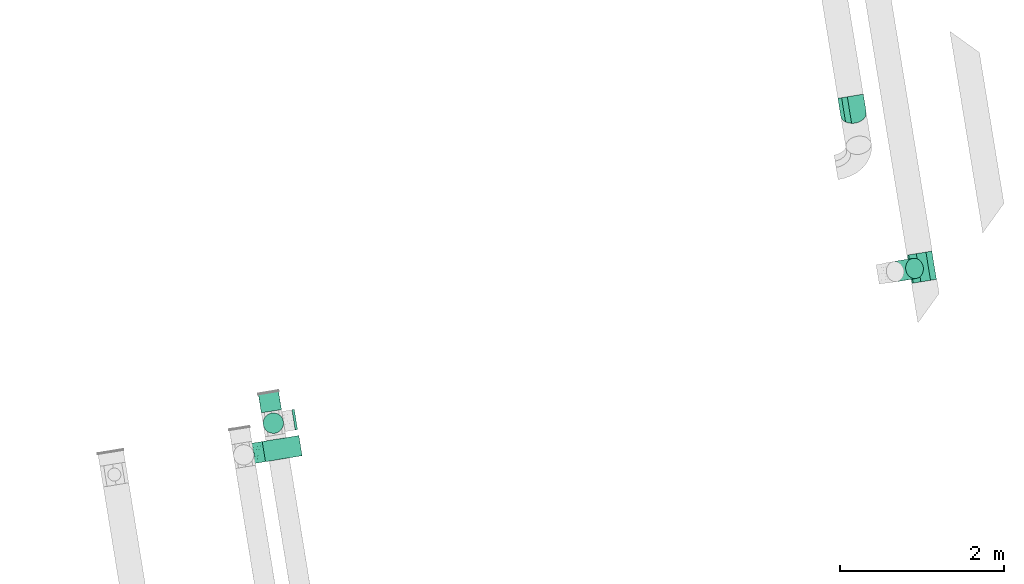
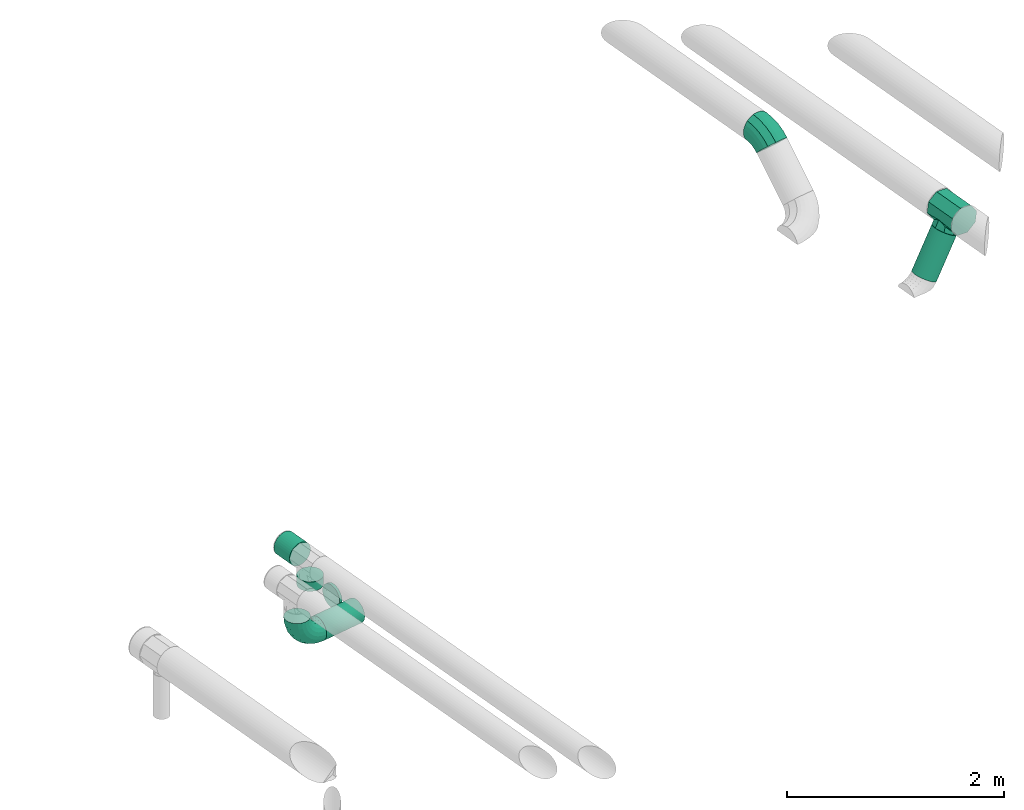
# One storey, part 5 of 15: 5 flow segments, 3 flow fittings.
"""IFC2X3 building model written with IfcOpenShell, lengths in millimetres."""

from ifc_helpers import new_model, entity, si_unit, converted_unit, derived_unit, direction, frame, frame_2d, origin, origin_with_axes, origin_2d_with_axis, place, context, subcontext, project, spatial, circle, extrude, faceted_brep, source, transform, mapped, material, type_object, element, save


model = new_model("IFC2X3")

# Units and contexts
model_context = context("Model", 3, precision=0.01, world=origin(), true_north=direction((6.12323399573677e-17, 1.0)))
plan_context = context("Plan", 3, precision=1e-05, world=origin_with_axes())
body_context = subcontext(model_context, "Body", "Model", "MODEL_VIEW")
ifc_project = project(units=[converted_unit("PLANEANGLEUNIT", "DEGREE", entity("IfcPositiveLengthMeasure", 0.0174532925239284), si_unit("PLANEANGLEUNIT", "RADIAN"), dimensions=[0, 0, 0, 0, 0, 0, 0]), si_unit("AREAUNIT", "SQUARE_METRE"), si_unit("LENGTHUNIT", "METRE", prefix="MILLI"), si_unit("MASSUNIT", "GRAM", prefix="KILO"), si_unit("POWERUNIT", "WATT"), si_unit("PRESSUREUNIT", "PASCAL", prefix="KILO"), si_unit("FORCEUNIT", "NEWTON", prefix="KILO"), si_unit("ELECTRICVOLTAGEUNIT", "VOLT"), si_unit("ELECTRICCURRENTUNIT", "AMPERE"), si_unit("THERMODYNAMICTEMPERATUREUNIT", "DEGREE_CELSIUS"), si_unit("TIMEUNIT", "SECOND"), si_unit("VOLUMEUNIT", "CUBIC_METRE"), derived_unit("LINEARVELOCITYUNIT", [(si_unit("LENGTHUNIT", "METRE"), 1), (si_unit("TIMEUNIT", "SECOND"), -1)]), derived_unit("VOLUMETRICFLOWRATEUNIT", [(si_unit("VOLUMEUNIT", "CUBIC_METRE"), 1), (si_unit("TIMEUNIT", "SECOND"), -1)]), derived_unit("THERMALTRANSMITTANCEUNIT", [(si_unit("POWERUNIT", "WATT"), 1), (si_unit("THERMODYNAMICTEMPERATUREUNIT", "KELVIN"), -1), (si_unit("AREAUNIT", "SQUARE_METRE"), -1)]), derived_unit("SOUNDPRESSUREUNIT", [(si_unit("PRESSUREUNIT", "PASCAL"), 1)])], contexts=[model_context, plan_context])

# Site, building, storey
site_placement = place(None, frame((5.09380697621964e-08, 5.80416781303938e-08, 0.0), z_axis=(0.0, 0.0, 1.0), x_axis=(-0.160806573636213, 0.986985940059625, 0.0)))
site = spatial("IfcSite", under=ifc_project, at=site_placement, Name="Default", CompositionType="ELEMENT")
building_placement = place(site_placement, frame((0.0, 0.0, 0.0), z_axis=(0.0, 0.0, 1.0), x_axis=(1.0, -2.77555756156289e-17, 0.0)))
building = spatial("IfcBuilding", under=site, at=building_placement, Name="Bygning (endres i Project Information)", CompositionType="ELEMENT")
storey_placement = place(building_placement, frame((0.0, 0.0, 51360.0000000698), z_axis=(0.0, 0.0, 1.0), x_axis=(1.0, -2.77555756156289e-17, 0.0)))
storey = spatial("IfcBuildingStorey", under=building, at=storey_placement, Name="H01-Nivå D+0,36", CompositionType="ELEMENT", Elevation=51360.0000000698)

# Flow fittings
ifc_material_1 = material(Name="DF_Material1")
duct_fitting_type_1 = type_object("IfcDuctFittingType", Name="Lindab TCPU:TCPU", PredefinedType="NOTDEFINED", material=ifc_material_1)
shared_shape_1 = source(origin(), body_context, "Body", "Brep", [
    faceted_brep([(125.000000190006, -182.0, 0.0), (88.3883477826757, -182.0, 88.388347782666), (0.0, -182.0, 125.000000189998), (-88.3883477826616, -182.0, 88.3883477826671), (-125.000000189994, -182.0, 0.0), (-88.3883477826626, -182.0, -88.3883477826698), (0.0, -182.0, -125.000000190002), (88.3883477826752, -182.0, -88.3883477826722), (-94.7906485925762, -134.783222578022, 81.4845567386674), (0.0, -95.8188396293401, 125.000000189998), (-125.000000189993, -157.500000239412, 0.0), (-109.895324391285, -146.141611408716, 40.7422783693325), (-102.490116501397, -141.156104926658, -48.0316624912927), (-79.9802328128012, -124.812209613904, -96.0633249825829), (0.0, -95.8188396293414, -125.000000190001), (94.7906485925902, -134.783222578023, -81.4845567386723), (125.000000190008, -157.500000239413, 0.0), (109.895324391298, -146.141611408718, -40.7422783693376), (102.486054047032, -141.153501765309, 48.0350445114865), (79.9721079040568, -124.807003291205, 96.0700890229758), (-175.0, -157.500000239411, 0.0), (-175.0, -134.434659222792, 55.6846591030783), (-175.0, -111.369318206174, 111.36931820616), (-175.0, 0.0, 157.500000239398), (-175.0, 111.369318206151, 111.369318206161), (-175.0, 157.500000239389, 0.0), (-175.0, 111.369318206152, -111.369318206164), (-175.0, 0.0, -157.500000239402), (-175.0, -111.369318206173, -111.369318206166), (-175.0, -134.434659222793, -55.6846591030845), (175.0, 0.0, -157.500000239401), (175.0, 111.369318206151, -111.369318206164), (175.0, 157.500000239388, 0.0), (175.0, 111.36931820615, 111.369318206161), (175.0, 0.0, 157.500000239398), (175.0, -111.369318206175, 111.36931820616), (175.0, -134.434659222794, 55.6846591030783), (175.0, -157.500000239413, 0.0), (175.0, -134.434659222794, -55.6846591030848), (175.0, -111.369318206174, -111.369318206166)], [[[0, 1, 2, 3, 4, 5, 6, 7]], [[2, 8, 3]], [[8, 2, 9]], [[10, 4, 3]], [[3, 8, 11, 10]], [[4, 10, 5]], [[5, 10, 12, 13]], [[13, 14, 6]], [[13, 6, 5]], [[6, 15, 7]], [[15, 6, 14]], [[16, 0, 7]], [[7, 15, 17, 16]], [[0, 16, 1]], [[1, 16, 18, 19]], [[19, 9, 2]], [[19, 2, 1]], [[20, 21, 22, 23, 24, 25, 26, 27, 28, 29]], [[30, 31, 32, 33, 34, 35, 36, 37, 38, 39]], [[23, 34, 33, 24]], [[33, 32, 25, 24]], [[32, 31, 26, 25]], [[31, 30, 27, 26]], [[30, 39, 14]], [[27, 14, 28]], [[14, 27, 30]], [[13, 28, 14]], [[14, 39, 15]], [[38, 17, 15]], [[17, 37, 16]], [[29, 13, 12]], [[20, 29, 12]], [[15, 39, 38]], [[37, 17, 38]], [[13, 29, 28]], [[20, 12, 10]], [[37, 18, 16]], [[8, 21, 11]], [[36, 19, 18]], [[11, 20, 10]], [[20, 11, 21]], [[36, 18, 37]], [[9, 19, 35]], [[35, 19, 36]], [[9, 35, 34]], [[22, 9, 23]], [[22, 8, 9]], [[23, 9, 34]], [[8, 22, 21]]]),
])
flow_fitting_1_placement = place(storey_placement, frame((1006397.35159129, -355679.838084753, 3800.0), z_axis=(2.40370335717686e-17, 0.866025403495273, 0.50000000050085), x_axis=(-1.0, 2.77555756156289e-17, 0.0)))
element("IfcFlowFitting", 1, at=flow_fitting_1_placement, inside=storey, type_object=duct_fitting_type_1, material=ifc_material_1, Name="Lindab TCPU:TCPU", ObjectType="Lindab TCPU:TCPU", context=body_context, shape_type="MappedRepresentation", body=[
    mapped(shared_shape_1, transform((0.0, 0.0, 0.0), scale=1.0)),
])
ifc_material_2 = material(Name="3601.001 Avtrekk")
duct_fitting_type_2 = type_object("IfcDuctFittingType", Name="magicirc_elbow_full_radius_NOR:magicirc_elbow_full_radius_NOR", PredefinedType="NOTDEFINED", material=ifc_material_2)
shared_shape_2 = source(origin(), body_context, "Body", "Brep", [
    faceted_brep([(-166.554650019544, -115.597967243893, 0.0), (-167.916018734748, -109.633421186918, 38.6271243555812), (-250.000000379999, -118.882064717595, 38.6271243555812), (-250.000000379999, -125.00000019, 0.0), (-171.866864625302, -92.3236343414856, 73.473156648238), (-250.000000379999, -101.127124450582, 73.473156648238), (-178.020451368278, -65.3630092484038, 101.127124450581), (-250.000000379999, -73.4731566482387, 101.127124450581), (-185.774423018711, -31.3906397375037, 118.882064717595), (-250.000000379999, -38.6271243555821, 118.882064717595), (-194.369766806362, 6.26802196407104, 125.00000019), (-250.000000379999, 0.0, 125.00000019), (-202.965110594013, 43.9266836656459, 118.882064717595), (-250.000000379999, 38.6271243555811, 118.882064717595), (-210.719082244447, 77.8990531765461, 101.127124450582), (-250.000000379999, 73.4731566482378, 101.127124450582), (-216.872668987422, 104.859678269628, 73.4731566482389), (-250.000000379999, 101.127124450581, 73.4731566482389), (-220.823514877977, 122.169465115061, 38.6271243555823), (-250.000000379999, 118.882064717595, 38.6271243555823), (-222.184883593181, 128.134011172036, 0.0), (-250.000000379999, 125.00000019, 0.0), (-220.823514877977, 122.169465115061, -38.6271243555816), (-250.000000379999, 118.882064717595, -38.6271243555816), (-216.872668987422, 104.859678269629, -73.4731566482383), (-250.000000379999, 101.127124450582, -73.4731566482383), (-210.719082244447, 77.8990531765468, -101.127124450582), (-250.000000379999, 73.4731566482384, -101.127124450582), (-202.965110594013, 43.9266836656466, -118.882064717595), (-250.000000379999, 38.6271243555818, -118.882064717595), (-194.369766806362, 6.26802196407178, -125.00000019), (-250.000000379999, 0.0, -125.00000019), (-185.774423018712, -31.3906397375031, -118.882064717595), (-250.000000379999, -38.6271243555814, -118.882064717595), (-178.020451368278, -65.3630092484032, -101.127124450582), (-250.000000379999, -73.4731566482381, -101.127124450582), (-171.866864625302, -92.3236343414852, -73.4731566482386), (-250.000000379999, -101.127124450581, -73.4731566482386), (-167.916018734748, -109.633421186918, -38.627124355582), (-250.000000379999, -118.882064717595, -38.627124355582), (-87.2935979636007, -87.8633255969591, 0.0), (-89.9480706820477, -82.3512562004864, 38.6271243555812), (-97.6516505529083, -66.3546077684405, 73.473156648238), (-109.650257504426, -41.4392437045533, 101.127124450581), (-124.769384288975, -10.0440534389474, 118.882064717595), (-141.529065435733, 24.7577830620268, 125.00000019), (-158.288746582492, 59.5596195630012, 118.882064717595), (-173.407873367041, 90.9548098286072, 101.127124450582), (-185.406480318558, 115.870173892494, 73.4731566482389), (-193.110060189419, 131.866822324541, 38.6271243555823), (-195.764532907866, 137.378891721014, 0.0), (-193.110060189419, 131.866822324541, -38.6271243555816), (-185.406480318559, 115.870173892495, -73.4731566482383), (-173.407873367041, 90.9548098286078, -101.127124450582), (-158.288746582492, 59.5596195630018, -118.882064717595), (-141.529065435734, 24.7577830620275, -125.00000019), (-124.769384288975, -10.0440534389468, -118.882064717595), (-109.650257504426, -41.4392437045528, -101.127124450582), (-97.6516505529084, -66.3546077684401, -73.4731566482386), (-89.9480706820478, -82.3512562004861, -38.627124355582), (-16.1913243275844, -43.1868059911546, 0.0), (-20.0057947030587, -38.4036114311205, 38.6271243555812), (-31.0758188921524, -24.5222401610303, 73.473156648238), (-48.3177857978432, -2.90149751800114, 101.127124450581), (-70.0439315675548, 24.3422275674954, 118.882064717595), (-94.127549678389, 54.5421294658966, 125.00000019), (-118.211167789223, 84.7420313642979, 118.882064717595), (-139.937313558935, 111.985756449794, 101.127124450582), (-157.179280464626, 133.606499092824, 73.4731566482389), (-168.24930465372, 147.487870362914, 38.6271243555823), (-172.063775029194, 152.271064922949, 0.0), (-168.24930465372, 147.487870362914, -38.6271243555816), (-157.179280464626, 133.606499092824, -73.4731566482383), (-139.937313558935, 111.985756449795, -101.127124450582), (-118.211167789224, 84.7420313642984, -118.882064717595), (-94.1275496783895, 54.5421294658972, -125.00000019), (-70.0439315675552, 24.3422275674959, -118.882064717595), (-48.3177857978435, -2.90149751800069, -101.127124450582), (-31.0758188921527, -24.5222401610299, -73.4731566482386), (-20.0057947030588, -38.4036114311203, -38.627124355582), (43.1868059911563, 16.1913243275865, 0.0), (38.4036114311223, 20.0057947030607, 38.6271243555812), (24.522240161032, 31.0758188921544, 73.473156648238), (2.90149751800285, 48.3177857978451, 101.127124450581), (-24.3422275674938, 70.0439315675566, 118.882064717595), (-54.542129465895, 94.1275496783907, 125.00000019), (-84.7420313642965, 118.211167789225, 118.882064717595), (-111.985756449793, 139.937313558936, 101.127124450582), (-133.606499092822, 157.179280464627, 73.4731566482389), (-147.487870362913, 168.249304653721, 38.6271243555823), (-152.271064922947, 172.063775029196, 0.0), (-147.487870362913, 168.249304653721, -38.6271243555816), (-133.606499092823, 157.179280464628, -73.4731566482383), (-111.985756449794, 139.937313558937, -101.127124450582), (-84.742031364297, 118.211167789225, -118.882064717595), (-54.5421294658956, 94.1275496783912, -125.00000019), (-24.3422275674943, 70.043931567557, -118.882064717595), (2.9014975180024, 48.3177857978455, -101.127124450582), (24.5222401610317, 31.0758188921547, -73.4731566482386), (38.4036114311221, 20.0057947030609, -38.627124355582), (87.8633255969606, 87.2935979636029, 0.0), (82.3512562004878, 89.9480706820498, 38.6271243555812), (66.3546077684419, 97.6516505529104, 73.473156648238), (41.4392437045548, 109.650257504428, 101.127124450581), (10.0440534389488, 124.769384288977, 118.882064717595), (-24.7577830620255, 141.529065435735, 125.00000019), (-59.5596195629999, 158.288746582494, 118.882064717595), (-90.954809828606, 173.407873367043, 101.127124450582), (-115.870173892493, 185.40648031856, 73.4731566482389), (-131.86682232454, 193.110060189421, 38.6271243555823), (-137.378891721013, 195.764532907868, 0.0), (-131.86682232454, 193.110060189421, -38.6271243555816), (-115.870173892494, 185.40648031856, -73.4731566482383), (-90.9548098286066, 173.407873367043, -101.127124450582), (-59.5596195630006, 158.288746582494, -118.882064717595), (-24.7577830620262, 141.529065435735, -125.00000019), (10.0440534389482, 124.769384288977, -118.882064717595), (41.4392437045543, 109.650257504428, -101.127124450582), (66.3546077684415, 97.6516505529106, -73.4731566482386), (82.3512562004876, 89.9480706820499, -38.627124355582), (115.597967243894, 166.554650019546, 0.0), (109.633421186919, 167.91601873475, 38.6271243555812), (92.3236343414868, 171.866864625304, 73.473156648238), (65.3630092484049, 178.02045136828, 101.127124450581), (31.3906397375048, 185.774423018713, 118.882064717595), (-6.26802196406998, 194.369766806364, 125.00000019), (-43.9266836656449, 202.965110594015, 118.882064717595), (-77.8990531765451, 210.719082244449, 101.127124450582), (-104.859678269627, 216.872668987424, 73.4731566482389), (-122.16946511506, 220.823514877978, 38.6271243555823), (-128.134011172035, 222.184883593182, 0.0), (-122.16946511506, 220.823514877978, -38.6271243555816), (-104.859678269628, 216.872668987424, -73.4731566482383), (-77.8990531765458, 210.719082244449, -101.127124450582), (-43.9266836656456, 202.965110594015, -118.882064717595), (-6.26802196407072, 194.369766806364, -125.00000019), (31.3906397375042, 185.774423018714, -118.882064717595), (65.3630092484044, 178.02045136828, -101.127124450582), (92.3236343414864, 171.866864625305, -73.4731566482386), (109.633421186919, 167.91601873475, -38.627124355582), (125.000000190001, 250.000000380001, 0.0), (118.882064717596, 250.000000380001, 38.6271243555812), (101.127124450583, 250.000000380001, 73.473156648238), (73.4731566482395, 250.000000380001, 101.127124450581), (38.6271243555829, 250.000000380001, 118.882064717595), (0.0, 250.000000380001, 125.00000019), (-38.6271243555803, 250.000000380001, 118.882064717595), (-73.473156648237, 250.000000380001, 101.127124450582), (-101.12712445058, 250.000000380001, 73.4731566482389), (-118.882064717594, 250.000000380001, 38.6271243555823), (-125.000000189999, 250.000000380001, 0.0), (-118.882064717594, 250.000000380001, -38.6271243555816), (-101.127124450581, 250.000000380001, -73.4731566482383), (-73.4731566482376, 250.000000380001, -101.127124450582), (-38.627124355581, 250.000000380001, -118.882064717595), (0.0, 250.000000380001, -125.00000019), (38.6271243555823, 250.000000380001, -118.882064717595), (73.473156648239, 250.000000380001, -101.127124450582), (101.127124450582, 250.000000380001, -73.4731566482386), (118.882064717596, 250.000000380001, -38.627124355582)], [[[0, 1, 2, 3]], [[1, 4, 5, 2]], [[4, 6, 7, 5]], [[6, 8, 9, 7]], [[8, 10, 11, 9]], [[10, 12, 13, 11]], [[12, 14, 15, 13]], [[14, 16, 17, 15]], [[16, 18, 19, 17]], [[18, 20, 21, 19]], [[20, 22, 23, 21]], [[22, 24, 25, 23]], [[24, 26, 27, 25]], [[26, 28, 29, 27]], [[28, 30, 31, 29]], [[30, 32, 33, 31]], [[32, 34, 35, 33]], [[34, 36, 37, 35]], [[36, 38, 39, 37]], [[38, 0, 3, 39]], [[40, 41, 1, 0]], [[41, 42, 4, 1]], [[42, 43, 6, 4]], [[43, 44, 8, 6]], [[44, 45, 10, 8]], [[45, 46, 12, 10]], [[46, 47, 14, 12]], [[47, 48, 16, 14]], [[48, 49, 18, 16]], [[49, 50, 20, 18]], [[50, 51, 22, 20]], [[51, 52, 24, 22]], [[52, 53, 26, 24]], [[53, 54, 28, 26]], [[54, 55, 30, 28]], [[55, 56, 32, 30]], [[56, 57, 34, 32]], [[57, 58, 36, 34]], [[58, 59, 38, 36]], [[59, 40, 0, 38]], [[60, 61, 41, 40]], [[61, 62, 42, 41]], [[62, 63, 43, 42]], [[63, 64, 44, 43]], [[64, 65, 45, 44]], [[65, 66, 46, 45]], [[66, 67, 47, 46]], [[67, 68, 48, 47]], [[68, 69, 49, 48]], [[69, 70, 50, 49]], [[70, 71, 51, 50]], [[71, 72, 52, 51]], [[72, 73, 53, 52]], [[73, 74, 54, 53]], [[74, 75, 55, 54]], [[75, 76, 56, 55]], [[76, 77, 57, 56]], [[77, 78, 58, 57]], [[78, 79, 59, 58]], [[79, 60, 40, 59]], [[80, 81, 61, 60]], [[81, 82, 62, 61]], [[82, 83, 63, 62]], [[83, 84, 64, 63]], [[84, 85, 65, 64]], [[85, 86, 66, 65]], [[86, 87, 67, 66]], [[87, 88, 68, 67]], [[88, 89, 69, 68]], [[89, 90, 70, 69]], [[90, 91, 71, 70]], [[91, 92, 72, 71]], [[92, 93, 73, 72]], [[93, 94, 74, 73]], [[94, 95, 75, 74]], [[95, 96, 76, 75]], [[96, 97, 77, 76]], [[97, 98, 78, 77]], [[98, 99, 79, 78]], [[99, 80, 60, 79]], [[100, 101, 81, 80]], [[101, 102, 82, 81]], [[102, 103, 83, 82]], [[103, 104, 84, 83]], [[104, 105, 85, 84]], [[105, 106, 86, 85]], [[106, 107, 87, 86]], [[107, 108, 88, 87]], [[108, 109, 89, 88]], [[109, 110, 90, 89]], [[110, 111, 91, 90]], [[111, 112, 92, 91]], [[112, 113, 93, 92]], [[113, 114, 94, 93]], [[114, 115, 95, 94]], [[115, 116, 96, 95]], [[116, 117, 97, 96]], [[117, 118, 98, 97]], [[118, 119, 99, 98]], [[119, 100, 80, 99]], [[120, 121, 101, 100]], [[121, 122, 102, 101]], [[122, 123, 103, 102]], [[123, 124, 104, 103]], [[124, 125, 105, 104]], [[125, 126, 106, 105]], [[126, 127, 107, 106]], [[127, 128, 108, 107]], [[128, 129, 109, 108]], [[129, 130, 110, 109]], [[130, 131, 111, 110]], [[131, 132, 112, 111]], [[132, 133, 113, 112]], [[133, 134, 114, 113]], [[134, 135, 115, 114]], [[135, 136, 116, 115]], [[136, 137, 117, 116]], [[137, 138, 118, 117]], [[138, 139, 119, 118]], [[139, 120, 100, 119]], [[140, 141, 121, 120]], [[141, 142, 122, 121]], [[142, 143, 123, 122]], [[143, 144, 124, 123]], [[144, 145, 125, 124]], [[145, 146, 126, 125]], [[146, 147, 127, 126]], [[147, 148, 128, 127]], [[148, 149, 129, 128]], [[149, 150, 130, 129]], [[150, 151, 131, 130]], [[151, 152, 132, 131]], [[152, 153, 133, 132]], [[153, 154, 134, 133]], [[154, 155, 135, 134]], [[155, 156, 136, 135]], [[156, 157, 137, 136]], [[157, 158, 138, 137]], [[158, 159, 139, 138]], [[159, 140, 120, 139]], [[3, 2, 5, 7, 9, 11, 13, 15, 17, 19, 21, 23, 25, 27, 29, 31, 33, 35, 37, 39]], [[159, 158, 157, 156, 155, 154, 153, 152, 151, 150, 149, 148, 147, 146, 145, 144, 143, 142, 141, 140]]]),
])
flow_fitting_2_placement = place(storey_placement, frame((1005465.68748115, -347124.100724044, 3300.0), z_axis=(1.0, -2.77555756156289e-17, 0.0), x_axis=(2.77555756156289e-17, 1.0, 0.0)))
element("IfcFlowFitting", 2, at=flow_fitting_2_placement, inside=storey, type_object=duct_fitting_type_2, material=ifc_material_2, Name="magicirc_elbow_full_radius_NOR:magicirc_elbow_full_radius_NOR", ObjectType="magicirc_elbow_full_radius_NOR:magicirc_elbow_full_radius_NOR", context=body_context, shape_type="MappedRepresentation", body=[
    mapped(shared_shape_2, transform((0.0, 0.0, 0.0), scale=1.0)),
])
duct_fitting_type_3 = type_object("IfcDuctFittingType", Name="magicirc_elbow_full_radius_NOR:magicirc_elbow_full_radius_NOR", PredefinedType="NOTDEFINED", material=ifc_material_2)
shared_shape_3 = source(origin(), body_context, "Body", "Brep", [
    faceted_brep([(-38.2970950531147, -148.421045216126, 0.0), (-39.3440828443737, -143.157482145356, 40.7639996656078), (-130.477272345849, -152.133317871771, 40.7639996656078), (-130.477272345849, -157.5000002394, 0.0), (-42.4136957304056, -127.72549605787, 78.7500001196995), (-130.477272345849, -136.399001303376, 78.7500001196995), (-47.2967446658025, -103.176751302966, 111.369318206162), (-130.477272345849, -111.369318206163, 111.369318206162), (-53.6604579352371, -71.1842042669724, 136.399001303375), (-130.477272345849, -78.7500001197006, 136.399001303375), (-61.0711589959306, -33.928094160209, 152.133317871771), (-130.477272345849, -40.763999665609, 152.133317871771), (-69.0238208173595, 6.05263668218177, 157.5000002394), (-130.477272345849, 0.0, 157.5000002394), (-76.9764826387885, 46.0333675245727, 152.133317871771), (-130.477272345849, 40.7639996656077, 152.133317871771), (-84.3871836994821, 83.2894776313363, 136.399001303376), (-130.477272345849, 78.7500001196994, 136.399001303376), (-90.7508969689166, 115.28202466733, 111.369318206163), (-130.477272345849, 111.369318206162, 111.369318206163), (-98.7035587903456, 155.262755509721, 40.7639996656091), (-130.47727234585, 152.133317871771, 40.7639996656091), (-99.7505465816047, 160.526318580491, 0.0), (-130.47727234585, 157.5000002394, 0.0), (-98.7035587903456, 155.262755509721, -40.7639996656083), (-130.47727234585, 152.133317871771, -40.7639996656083), (-95.6339459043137, 139.830769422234, -78.7500001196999), (-130.47727234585, 136.399001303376, -78.7500001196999), (-90.7508969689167, 115.28202466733, -111.369318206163), (-130.477272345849, 111.369318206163, -111.369318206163), (-84.3871836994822, 83.289477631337, -136.399001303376), (-130.477272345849, 78.7500001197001, -136.399001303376), (-76.9764826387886, 46.0333675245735, -152.133317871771), (-130.477272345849, 40.7639996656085, -152.133317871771), (-69.0238208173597, 6.0526366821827, -157.5000002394), (-130.477272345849, 0.0, -157.5000002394), (-61.0711589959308, -33.9280941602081, -152.133317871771), (-130.477272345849, -40.763999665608, -152.133317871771), (-53.6604579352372, -71.1842042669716, -136.399001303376), (-130.477272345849, -78.7500001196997, -136.399001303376), (-47.2967446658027, -103.176751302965, -111.369318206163), (-130.477272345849, -111.369318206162, -111.369318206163), (-39.3440828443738, -143.157482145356, -40.7639996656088), (-130.477272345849, -152.133317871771, -40.7639996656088), (50.340649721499, -121.533079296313, 0.0), (48.2869092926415, -116.574911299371, 40.7639996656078), (42.2656470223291, -102.038298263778, 78.7500001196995), (32.6872019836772, -78.9138863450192, 111.369318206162), (20.2043293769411, -48.7775660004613, 136.399001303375), (5.66771634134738, -13.6830776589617, 152.133317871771), (-9.93199096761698, 23.9779472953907, 157.5000002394), (-25.5316982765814, 61.6389722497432, 152.133317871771), (-40.0683113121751, 96.733460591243, 136.399001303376), (-52.5511839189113, 126.869780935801, 111.369318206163), (-68.1508912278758, 164.530805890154, 40.7639996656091), (-70.2046316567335, 169.488973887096, 0.0), (-68.1508912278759, 164.530805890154, -40.7639996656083), (-62.1296289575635, 149.99419285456, -78.7500001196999), (-52.5511839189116, 126.869780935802, -111.369318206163), (-40.0683113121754, 96.7334605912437, -136.399001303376), (-25.5316982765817, 61.638972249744, -152.133317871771), (-9.93199096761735, 23.9779472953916, -157.5000002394), (5.66771634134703, -13.6830776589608, -152.133317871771), (20.2043293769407, -48.7775660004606, -136.399001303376), (32.6872019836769, -78.9138863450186, -111.369318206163), (48.2869092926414, -116.574911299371, -40.7639996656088), (132.029663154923, -77.8693919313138, 0.0), (129.048094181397, -73.4071586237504, 40.7639996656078), (120.30657625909, -60.3245525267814, 78.7500001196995), (106.400829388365, -39.5131316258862, 111.369318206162), (88.2785072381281, -12.3911598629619, 136.399001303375), (67.1746161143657, 19.1930452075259, 152.133317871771), (44.5273513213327, 53.0870722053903, 157.5000002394), (21.8800865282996, 86.9810992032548, 152.133317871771), (0.776195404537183, 118.565304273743, 136.399001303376), (-17.3461267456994, 145.687276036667, 111.369318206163), (-39.9933915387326, 179.581303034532, 40.7639996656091), (-42.9749605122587, 184.043536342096, 0.0), (-39.9933915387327, 179.581303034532, -40.7639996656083), (-31.2518736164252, 166.498696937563, -78.7500001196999), (-17.3461267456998, 145.687276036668, -111.369318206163), (0.776195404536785, 118.565304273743, -136.399001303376), (21.8800865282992, 86.9810992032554, -152.133317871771), (44.5273513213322, 53.0870722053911, -157.5000002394), (67.1746161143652, 19.1930452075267, -152.133317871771), (88.2785072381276, -12.3911598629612, -136.399001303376), (106.400829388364, -39.5131316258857, -111.369318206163), (129.048094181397, -73.4071586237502, -40.7639996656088), (203.630682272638, -19.1079541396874, 0.0), (199.835864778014, -15.3131366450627, 40.7639996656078), (188.710022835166, -4.18729470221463, 78.7500001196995), (171.011364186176, 13.5113639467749, 111.369318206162), (147.946023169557, 36.5767049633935, 136.399001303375), (121.085864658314, 63.4368634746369, 152.133317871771), (92.2613640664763, 92.2613640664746, 157.5000002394), (63.4368634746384, 121.085864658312, 152.133317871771), (36.5767049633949, 147.946023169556, 136.399001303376), (13.5113639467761, 171.011364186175, 111.369318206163), (-15.3131366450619, 199.835864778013, 40.7639996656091), (-19.1079541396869, 203.630682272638, 0.0), (-15.3131366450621, 199.835864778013, -40.7639996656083), (-4.18729470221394, 188.710022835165, -78.7500001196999), (13.5113639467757, 171.011364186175, -111.369318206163), (36.5767049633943, 147.946023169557, -136.399001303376), (63.4368634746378, 121.085864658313, -152.133317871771), (92.2613640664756, 92.2613640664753, -157.5000002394), (121.085864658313, 63.4368634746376, -152.133317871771), (147.946023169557, 36.576704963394, -136.399001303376), (171.011364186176, 13.5113639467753, -111.369318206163), (199.835864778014, -15.3131366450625, -40.7639996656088)], [[[0, 1, 2, 3]], [[1, 4, 5, 2]], [[4, 6, 7, 5]], [[6, 8, 9, 7]], [[8, 10, 11, 9]], [[10, 12, 13, 11]], [[12, 14, 15, 13]], [[14, 16, 17, 15]], [[16, 18, 19, 17]], [[18, 20, 21, 19]], [[20, 22, 23, 21]], [[22, 24, 25, 23]], [[24, 26, 27, 25]], [[26, 28, 29, 27]], [[28, 30, 31, 29]], [[30, 32, 33, 31]], [[32, 34, 35, 33]], [[34, 36, 37, 35]], [[36, 38, 39, 37]], [[38, 40, 41, 39]], [[40, 42, 43, 41]], [[42, 0, 3, 43]], [[44, 45, 1, 0]], [[45, 46, 4, 1]], [[46, 47, 6, 4]], [[47, 48, 8, 6]], [[48, 49, 10, 8]], [[49, 50, 12, 10]], [[50, 51, 14, 12]], [[51, 52, 16, 14]], [[52, 53, 18, 16]], [[53, 54, 20, 18]], [[54, 55, 22, 20]], [[55, 56, 24, 22]], [[56, 57, 26, 24]], [[57, 58, 28, 26]], [[58, 59, 30, 28]], [[59, 60, 32, 30]], [[60, 61, 34, 32]], [[61, 62, 36, 34]], [[62, 63, 38, 36]], [[63, 64, 40, 38]], [[64, 65, 42, 40]], [[65, 44, 0, 42]], [[66, 67, 45, 44]], [[67, 68, 46, 45]], [[68, 69, 47, 46]], [[69, 70, 48, 47]], [[70, 71, 49, 48]], [[71, 72, 50, 49]], [[72, 73, 51, 50]], [[73, 74, 52, 51]], [[74, 75, 53, 52]], [[75, 76, 54, 53]], [[76, 77, 55, 54]], [[77, 78, 56, 55]], [[78, 79, 57, 56]], [[79, 80, 58, 57]], [[80, 81, 59, 58]], [[81, 82, 60, 59]], [[82, 83, 61, 60]], [[83, 84, 62, 61]], [[84, 85, 63, 62]], [[85, 86, 64, 63]], [[86, 87, 65, 64]], [[87, 66, 44, 65]], [[88, 89, 67, 66]], [[89, 90, 68, 67]], [[90, 91, 69, 68]], [[91, 92, 70, 69]], [[92, 93, 71, 70]], [[93, 94, 72, 71]], [[94, 95, 73, 72]], [[95, 96, 74, 73]], [[96, 97, 75, 74]], [[97, 98, 76, 75]], [[98, 99, 77, 76]], [[99, 100, 78, 77]], [[100, 101, 79, 78]], [[101, 102, 80, 79]], [[102, 103, 81, 80]], [[103, 104, 82, 81]], [[104, 105, 83, 82]], [[105, 106, 84, 83]], [[106, 107, 85, 84]], [[107, 108, 86, 85]], [[108, 109, 87, 86]], [[109, 88, 66, 87]], [[3, 2, 5, 7, 9, 11, 13, 15, 17, 19, 21, 23, 25, 27, 29, 31, 33, 35, 37, 39, 41, 43]], [[109, 108, 107, 106, 105, 104, 103, 102, 101, 100, 99, 98, 97, 96, 95, 94, 93, 92, 91, 90, 89, 88]]]),
])
flow_fitting_3_placement = place(storey_placement, frame((1008471.23246289, -355155.614985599, 3800.0), z_axis=(-2.77555756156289e-17, -1.0, 0.0), x_axis=(-1.0, 2.77555756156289e-17, 0.0)))
element("IfcFlowFitting", 3, at=flow_fitting_3_placement, inside=storey, type_object=duct_fitting_type_3, material=ifc_material_2, Name="magicirc_elbow_full_radius_NOR:magicirc_elbow_full_radius_NOR", ObjectType="magicirc_elbow_full_radius_NOR:magicirc_elbow_full_radius_NOR", context=body_context, shape_type="MappedRepresentation", body=[
    mapped(shared_shape_3, transform((0.0, 0.0, 0.0), scale=1.0)),
])

# Flow segments
ifc_material_3 = material(Name="3601.001 Tilluft")
duct_segment_type = type_object("IfcDuctSegmentType", Name="Round Duct:Sirkulær kanal", PredefinedType="NOTDEFINED", material=ifc_material_3)
flow_segment_1_placement = place(storey_placement, frame((0.0, 0.0, 0.0), z_axis=(0.0, 0.0, 1.0), x_axis=(1.0, -2.77555756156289e-17, 0.0)))
element("IfcFlowSegment", 4, at=flow_segment_1_placement, inside=storey, type_object=duct_segment_type, Name="Round Duct:Sirkulær kanal", ObjectType="Round Duct:Sirkulær kanal", context=body_context, shape_type="SweptSolid", body=[
    extrude(circle(Radius=125.00000019, at=origin_2d_with_axis()), frame((1005938.34874747, -347544.675938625, 3804.40000000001), z_axis=(1.0, 0.0, 0.0), x_axis=(0.0, -1.0, 0.0)), (0.0, 0.0, 1.0), 227.51598174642),
])
flow_segment_2_placement = place(storey_placement, frame((0.0, 0.0, 0.0), z_axis=(0.0, 0.0, 1.0), x_axis=(1.0, -2.77555756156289e-17, 0.0)))
element("IfcFlowSegment", 5, at=flow_segment_2_placement, inside=storey, type_object=duct_segment_type, Name="Round Duct:Sirkulær kanal", ObjectType="Round Duct:Sirkulær kanal", context=body_context, shape_type="SweptSolid", body=[
    extrude(circle(Radius=125.00000019, at=origin_2d_with_axis()), frame((1005790.34874747, -347544.675938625, 3550.00000038), z_axis=(0.0, 0.0, 1.0), x_axis=(0.0, 1.0, 0.0)), (0.0, 0.0, 1.0), 104.399999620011),
])
flow_segment_3_placement = place(storey_placement, frame((0.0, 0.0, 0.0), z_axis=(0.0, 0.0, 1.0), x_axis=(1.0, -2.77555756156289e-17, 0.0)))
element("IfcFlowSegment", 6, at=flow_segment_3_placement, inside=storey, type_object=duct_segment_type, Name="Round Duct:Sirkulær kanal", ObjectType="Round Duct:Sirkulær kanal", context=body_context, shape_type="SweptSolid", body=[
    extrude(circle(Radius=125.00000019, at=origin_2d_with_axis()), frame((1005790.34874747, -347824.675938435, 3300.0), z_axis=(0.0, 1.0, 0.0), x_axis=(-1.0, 0.0, 0.0)), (0.0, 0.0, 1.0), 29.9999994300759),
])
flow_segment_4_placement = place(storey_placement, frame((0.0, 0.0, 0.0), z_axis=(0.0, 0.0, 1.0), x_axis=(1.0, -2.77555756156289e-17, 0.0)))
element("IfcFlowSegment", 7, at=flow_segment_4_placement, inside=storey, type_object=duct_segment_type, Name="Round Duct:Sirkulær kanal", ObjectType="Round Duct:Sirkulær kanal", context=body_context, shape_type="SweptSolid", body=[
    extrude(circle(Radius=125.00000019, at=origin_2d_with_axis()), frame((1005465.68748115, -347827.885608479, 3300.0), z_axis=(0.0, 1.0, 0.0), x_axis=(-1.0, 0.0, 0.0)), (0.0, 0.0, 1.0), 453.784884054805),
])
flow_segment_5_placement = place(storey_placement, frame((0.0, 0.0, 0.0), z_axis=(0.0, 0.0, 1.0), x_axis=(1.0, -2.77555756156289e-17, 0.0)))
element("IfcFlowSegment", 8, at=flow_segment_5_placement, inside=storey, type_object=duct_segment_type, Name="Round Duct:Sirkulær kanal", ObjectType="Round Duct:Sirkulær kanal", context=body_context, shape_type="SweptSolid", body=[
    extrude(circle(Radius=125.00000019, at=frame_2d((0.0, -4.3314685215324e-12), x_axis=(1.0, 0.0))), frame((1006397.35159129, -355348.721871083, 3226.48989547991), z_axis=(0.0, -0.50000000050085, 0.866025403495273), x_axis=(1.0, 0.0, 0.0)), (0.0, 0.0, 1.0), 480.232426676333),
])

save(model, "model.ifc")
